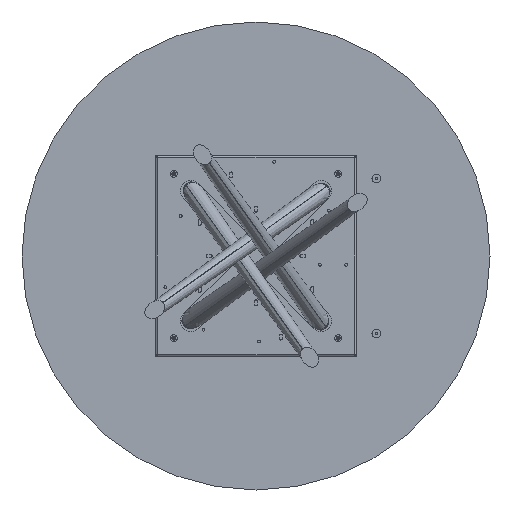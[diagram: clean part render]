
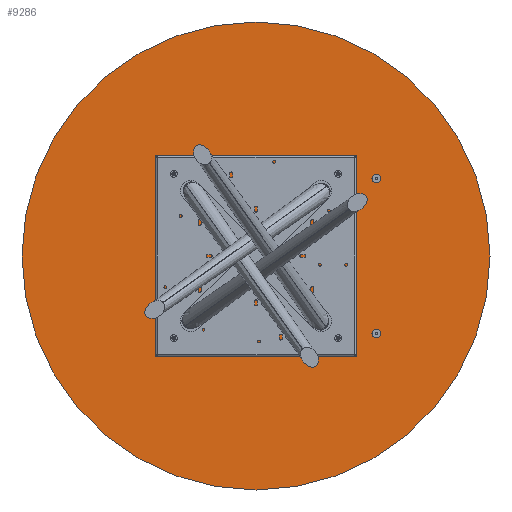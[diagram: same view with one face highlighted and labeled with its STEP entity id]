
A CAD part, front view. The second image highlights one B-rep face of the part: STEP entity #9286.
In plain terms, the highlighted planar face has unit normal (0, -1, 0).
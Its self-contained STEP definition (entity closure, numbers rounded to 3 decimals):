
#36 = DIRECTION ( 'NONE',  ( 0., -1., 0. ) ) ;
#820 = EDGE_LOOP ( 'NONE', ( #15920, #5910 ) ) ;
#885 = CIRCLE ( 'NONE', #3017, 800. ) ;
#1374 = PLANE ( 'NONE',  #4554 ) ;
#2622 = FACE_OUTER_BOUND ( 'NONE', #820, .T. ) ;
#3017 = AXIS2_PLACEMENT_3D ( 'NONE', #18564, #17330, #15904 ) ;
#3106 = CARTESIAN_POINT ( 'NONE',  ( 0., 0., 0. ) ) ;
#4046 = CARTESIAN_POINT ( 'NONE',  ( 0., 0., 0. ) ) ;
#4554 = AXIS2_PLACEMENT_3D ( 'NONE', #4046, #36, #9861 ) ;
#5910 = ORIENTED_EDGE ( 'NONE', *, *, #8266, .T. ) ;
#6322 = VERTEX_POINT ( 'NONE', #17765 ) ;
#8266 = EDGE_CURVE ( 'NONE', #14851, #6322, #18493, .T. ) ;
#8817 = EDGE_CURVE ( 'NONE', #6322, #14851, #885, .T. ) ;
#8910 = DIRECTION ( 'NONE',  ( 0., -1., 0. ) ) ;
#9286 = ADVANCED_FACE ( 'NONE', ( #2622 ), #1374, .T. ) ;
#9861 = DIRECTION ( 'NONE',  ( 0., 0., -1. ) ) ;
#14398 = CARTESIAN_POINT ( 'NONE',  ( 0., 0., 800. ) ) ;
#14714 = DIRECTION ( 'NONE',  ( 0., 0., -1. ) ) ;
#14851 = VERTEX_POINT ( 'NONE', #14398 ) ;
#15155 = AXIS2_PLACEMENT_3D ( 'NONE', #3106, #8910, #14714 ) ;
#15904 = DIRECTION ( 'NONE',  ( 0., 0., -1. ) ) ;
#15920 = ORIENTED_EDGE ( 'NONE', *, *, #8817, .T. ) ;
#17330 = DIRECTION ( 'NONE',  ( 0., -1., 0. ) ) ;
#17765 = CARTESIAN_POINT ( 'NONE',  ( 0., 0., -800. ) ) ;
#18493 = CIRCLE ( 'NONE', #15155, 800. ) ;
#18564 = CARTESIAN_POINT ( 'NONE',  ( 0., 0., 0. ) ) ;
